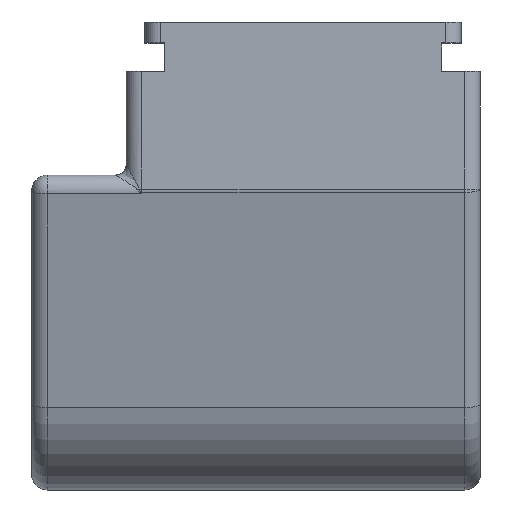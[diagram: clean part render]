
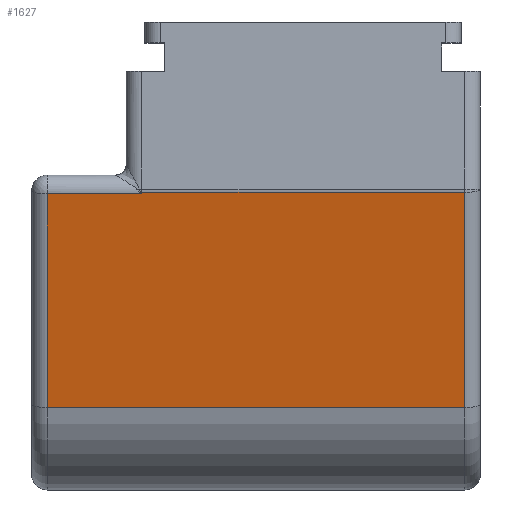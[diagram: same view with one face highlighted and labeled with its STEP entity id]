
A CAD part, top view. The second image highlights one B-rep face of the part: STEP entity #1627.
In plain terms, the highlighted planar face has unit normal (0, -0.201, 0.98) as drawn and (0, 0.98, 0.201) by its records, which use the part's own axes.
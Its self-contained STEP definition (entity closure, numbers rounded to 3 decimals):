
#120=DIRECTION('',(0.,-0.201,0.98));
#121=VECTOR('',#120,0.156);
#122=CARTESIAN_POINT('',(-10.9,29.769,1.649));
#123=LINE('',#122,#121);
#124=DIRECTION('',(-1.,0.,0.));
#125=VECTOR('',#124,30.8);
#126=CARTESIAN_POINT('',(19.9,29.769,1.649));
#127=LINE('',#126,#125);
#128=DIRECTION('',(0.,-0.201,0.98));
#129=VECTOR('',#128,20.949);
#130=CARTESIAN_POINT('',(19.9,29.769,1.649));
#131=LINE('',#130,#129);
#132=DIRECTION('',(0.,0.201,-0.98));
#133=VECTOR('',#132,20.794);
#134=CARTESIAN_POINT('',(-19.9,25.557,22.171));
#135=LINE('',#134,#133);
#136=DIRECTION('',(1.,0.,0.));
#137=VECTOR('',#136,9.);
#138=CARTESIAN_POINT('',(-19.9,29.738,1.802));
#139=LINE('',#138,#137);
#191=CARTESIAN_POINT('',(-10.9,29.738,1.802));
#565=DIRECTION('',(1.,0.,0.));
#566=VECTOR('',#565,39.8);
#567=CARTESIAN_POINT('',(-19.9,25.557,22.171));
#568=LINE('',#567,#566);
#1350=CARTESIAN_POINT('',(19.9,25.557,22.171));
#1352=VERTEX_POINT('',#1350);
#1356=CARTESIAN_POINT('',(19.9,29.769,1.649));
#1357=VERTEX_POINT('',#1356);
#1371=CARTESIAN_POINT('',(-19.9,25.557,22.171));
#1373=VERTEX_POINT('',#1371);
#1374=CARTESIAN_POINT('',(-19.9,29.738,1.802));
#1375=VERTEX_POINT('',#1374);
#1456=CARTESIAN_POINT('',(-10.9,29.769,1.649));
#1457=VERTEX_POINT('',#1456);
#1470=VERTEX_POINT('',#191);
#1609=CARTESIAN_POINT('',(-21.4,29.8,1.5));
#1610=DIRECTION('',(0.,0.98,0.201));
#1611=DIRECTION('',(0.,-0.201,0.98));
#1612=AXIS2_PLACEMENT_3D('',#1609,#1610,#1611);
#1613=PLANE('',#1612);
#1615=ORIENTED_EDGE('',*,*,#1614,.F.);
#1617=ORIENTED_EDGE('',*,*,#1616,.F.);
#1619=ORIENTED_EDGE('',*,*,#1618,.T.);
#1621=ORIENTED_EDGE('',*,*,#1620,.F.);
#1622=ORIENTED_EDGE('',*,*,#1600,.T.);
#1624=ORIENTED_EDGE('',*,*,#1623,.T.);
#1625=EDGE_LOOP('',(#1615,#1617,#1619,#1621,#1622,#1624));
#1626=FACE_OUTER_BOUND('',#1625,.F.);
#1600=EDGE_CURVE('',#1373,#1375,#135,.T.);
#1614=EDGE_CURVE('',#1457,#1470,#123,.T.);
#1616=EDGE_CURVE('',#1357,#1457,#127,.T.);
#1618=EDGE_CURVE('',#1357,#1352,#131,.T.);
#1620=EDGE_CURVE('',#1373,#1352,#568,.T.);
#1623=EDGE_CURVE('',#1375,#1470,#139,.T.);
#1627=ADVANCED_FACE('',(#1626),#1613,.T.);
